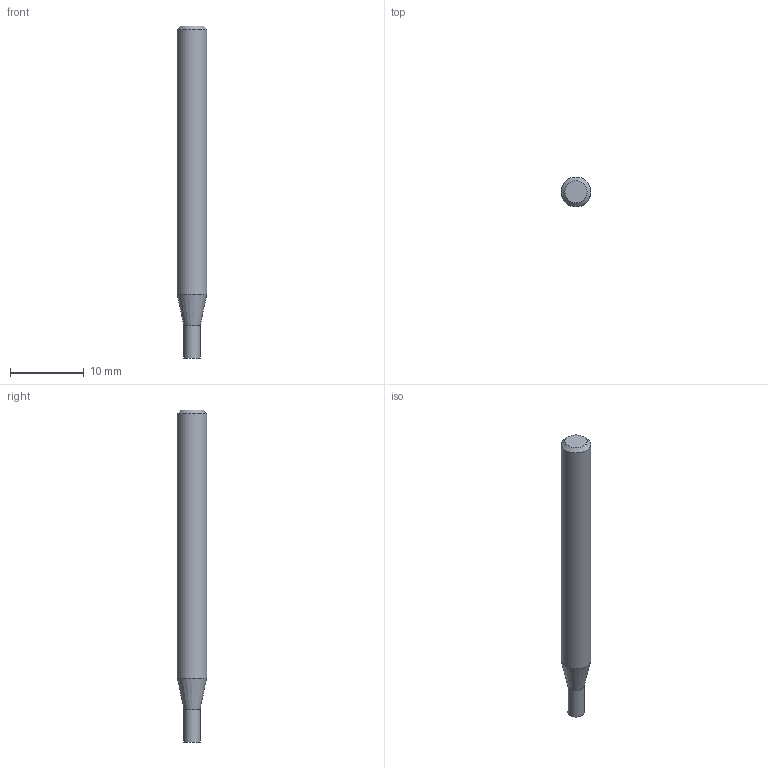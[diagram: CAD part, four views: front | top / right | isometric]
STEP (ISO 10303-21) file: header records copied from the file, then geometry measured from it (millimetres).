
FILE_DESCRIPTION((''),'2;1');
FILE_NAME('C:\Users\nsx150\AppData\Local\Temp\Mastercam 2021\E36A1X9CCL\TEMP.step','2023-04-21T15:12:28',(''),(''),'STEP Write','Mastercam 2021 ... CNC Software, Inc.','');
FILE_SCHEMA(('AUTOMOTIVE_DESIGN'));
Length unit declared in the file: millimetre
Products named in the file (1): None
Bounding box: 4 x 4 x 45 mm (x, y, z)
Volume: 505.1 mm3; surface area: 549.5 mm2
Topology: 2 solids, 2 shells, 8 faces, 10 edges, 6 vertices
Faces by surface type: plane 4, cylinder 2, cone 2
Full cylindrical faces by diameter (mm): 2.2 x1, 4 x1
Entity records: 190 total; most frequent: DIRECTION 32, CARTESIAN_POINT 22, AXIS2_PLACEMENT_3D 16, ORIENTED_EDGE 12, EDGE_LOOP 12, STYLED_ITEM 11, ADVANCED_FACE 8, VERTEX_POINT 6
